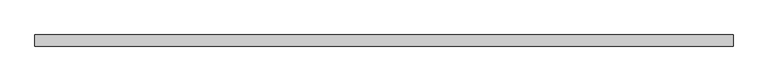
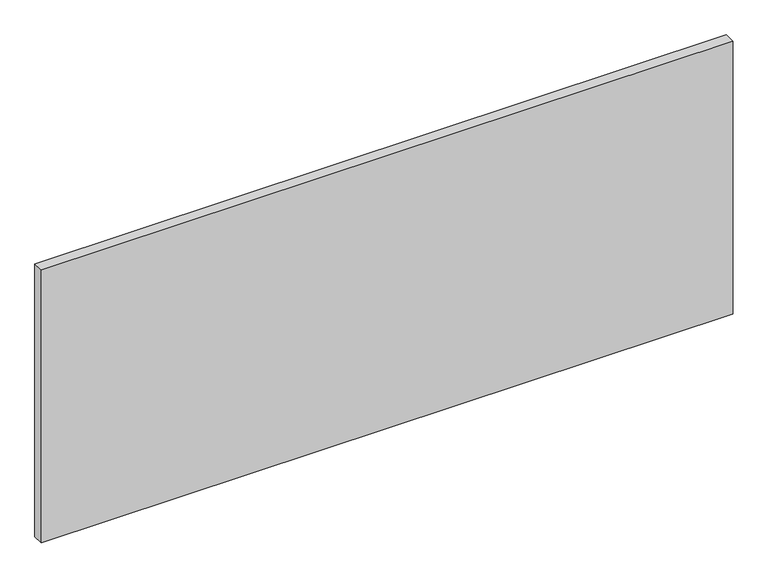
"""IFC4 building model written with IfcOpenShell, lengths in millimetres: plate geometry, 系统嵌板 : 玻璃."""

from ifc_helpers import new_model, si_unit, origin, origin_with_axes, place, context, project, spatial, polyline, outline, extrude, source, transform, mapped, element, save


def plate_538d52de(model_context):
    return source(origin(), model_context, "Body", "SweptSolid", [
        extrude(outline(polyline([(785.0, -12.5), (-785.0, -12.5), (-785.0, 12.5), (785.0, 12.5), (785.0, -12.5)])), origin_with_axes(), (0.0, 0.0, 1.0), 655.0),
    ])


if __name__ == "__main__":
    model = new_model("IFC4")
    model_context = context("Model", 3, world=origin())
    ifc_project = project(units=[si_unit("LENGTHUNIT", "METRE", prefix="MILLI")], contexts=[model_context])
    site = spatial("IfcSite", under=ifc_project)
    building = spatial("IfcBuilding", under=site)
    placement = place(None, origin())
    plate_shape = plate_538d52de(model_context)
    element("IfcPlate", 1, ObjectType="系统嵌板 : 玻璃", at=placement, inside=building, context=model_context, shape_type="MappedRepresentation", body=[
        mapped(plate_shape, transform((0.0, 0.0, 0.0), x_axis=(1.0, 0.0, 0.0), y_axis=(0.0, 1.0, 0.0), z_axis=(0.0, 0.0, 1.0))),
    ])
    save(model, "model.ifc")
